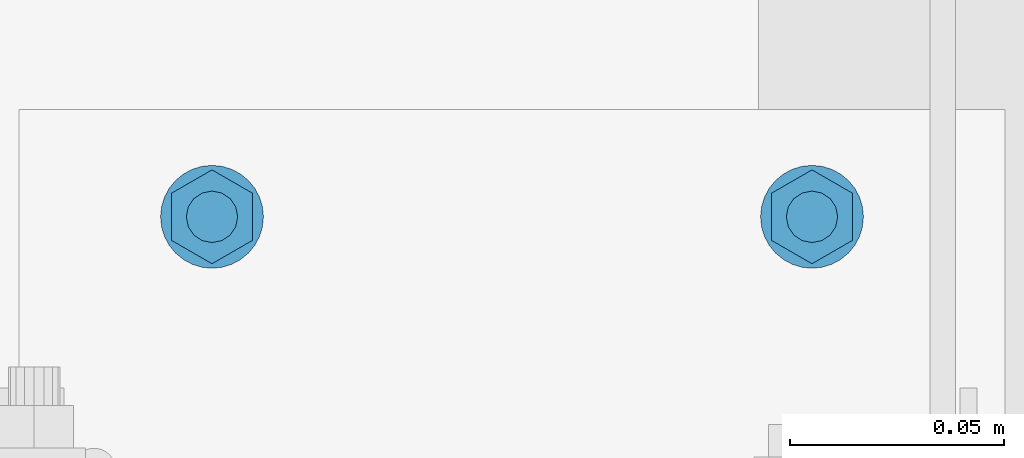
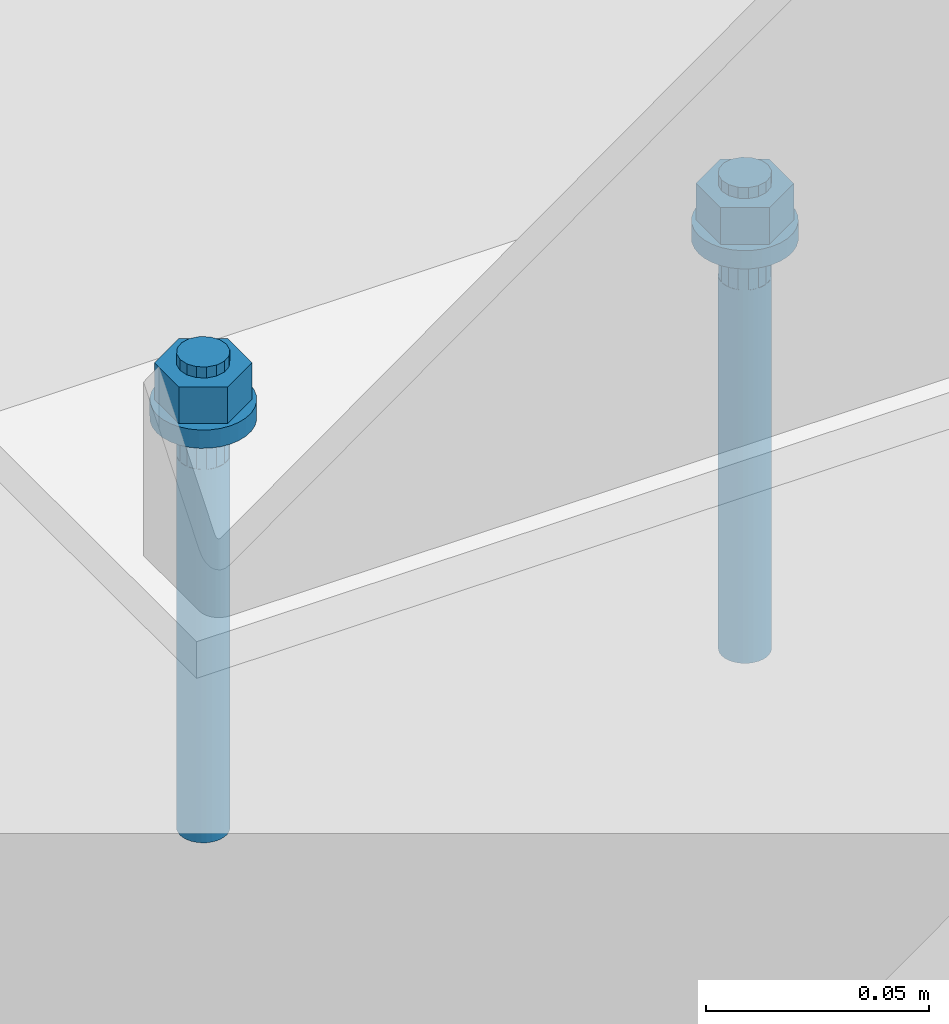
# One storey, part 32 of 116: 1 mechanical fastener.
"""IFC2X3 building model written with IfcOpenShell, lengths in millimetres."""

from ifc_helpers import new_model, entity, si_unit, converted_unit, origin_with_axes, place, context, project, spatial, faceted_brep, element, save


model = new_model("IFC2X3")

# Units and contexts
model_context = context("Model", 3, precision=1e-09, world=origin_with_axes())
ifc_project = project(units=[si_unit("LENGTHUNIT", "METRE", prefix="MILLI"), si_unit("AREAUNIT", "SQUARE_METRE"), si_unit("VOLUMEUNIT", "CUBIC_METRE"), converted_unit("PLANEANGLEUNIT", "DEGREE", entity("IfcPlaneAngleMeasure", 0.01745329), si_unit("PLANEANGLEUNIT", "RADIAN"), dimensions=[0, 0, 0, 0, 0, 0, 0])], contexts=[model_context])

# Site, building, storey
site_placement = place(None, origin_with_axes())
site = spatial("IfcSite", under=ifc_project, at=site_placement, Name="Site", CompositionType="ELEMENT")
building_placement = place(site_placement, origin_with_axes())
building = spatial("IfcBuilding", under=site, at=building_placement, Name="Struktur 1", CompositionType="ELEMENT")
storey_placement = place(building_placement, origin_with_axes())
storey = spatial("IfcBuildingStorey", under=building, at=storey_placement, Name="Default Storey", CompositionType="ELEMENT", Elevation=0.0)

# Mechanical fastener
mechanical_fastener_placement = place(None, origin_with_axes())
element("IfcMechanicalFastener", 1, at=mechanical_fastener_placement, inside=storey, ObjectType="-", NominalDiameter=12.0, NominalLength=130.0, context=model_context, shape_type="Brep", body=[
    faceted_brep([(60566.549134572, 9142.358883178, -1739.5), (60566.549134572, 9142.358883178, -1742.0), (60566.779711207, 9140.017799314, -1742.0), (60566.779711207, 9140.017799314, -1739.5), (60567.462580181, 9137.76668199, -1742.0), (60567.462580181, 9137.76668199, -1739.5), (60568.571499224, 9135.692040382, -1742.0), (60568.571499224, 9135.692040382, -1739.5), (60570.063853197, 9133.873601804, -1742.0), (60570.063853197, 9133.873601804, -1739.5), (60571.882291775, 9132.381247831, -1742.0), (60571.882291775, 9132.381247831, -1739.5), (60573.956933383, 9131.272328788, -1742.0), (60573.956933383, 9131.272328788, -1739.5), (60576.208050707, 9130.589459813, -1742.0), (60576.208050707, 9130.589459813, -1739.5), (60578.549134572, 9130.358883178, -1742.0), (60578.549134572, 9130.358883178, -1739.5), (60580.890218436, 9130.589459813, -1742.0), (60580.890218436, 9130.589459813, -1739.5), (60583.14133576, 9131.272328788, -1742.0), (60583.14133576, 9131.272328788, -1739.5), (60585.215977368, 9132.381247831, -1742.0), (60585.215977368, 9132.381247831, -1739.5), (60587.034415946, 9133.873601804, -1742.0), (60587.034415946, 9133.873601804, -1739.5), (60588.526769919, 9135.692040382, -1742.0), (60588.526769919, 9135.692040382, -1739.5), (60589.635688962, 9137.76668199, -1742.0), (60589.635688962, 9137.76668199, -1739.5), (60590.318557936, 9140.017799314, -1742.0), (60590.318557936, 9140.017799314, -1739.5), (60590.549134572, 9142.358883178, -1742.0), (60590.549134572, 9142.358883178, -1739.5), (60590.318557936, 9144.699967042, -1742.0), (60590.318557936, 9144.699967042, -1739.5), (60589.635688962, 9146.951084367, -1742.0), (60589.635688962, 9146.951084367, -1739.5), (60588.526769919, 9149.025725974, -1742.0), (60588.526769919, 9149.025725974, -1739.5), (60587.034415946, 9150.844164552, -1742.0), (60587.034415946, 9150.844164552, -1739.5), (60585.215977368, 9152.336518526, -1742.0), (60585.215977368, 9152.336518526, -1739.5), (60583.14133576, 9153.445437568, -1742.0), (60583.14133576, 9153.445437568, -1739.5), (60580.890218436, 9154.128306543, -1742.0), (60580.890218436, 9154.128306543, -1739.5), (60578.549134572, 9154.358883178, -1742.0), (60578.549134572, 9154.358883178, -1739.5), (60576.208050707, 9154.128306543, -1742.0), (60576.208050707, 9154.128306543, -1739.5), (60573.956933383, 9153.445437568, -1742.0), (60573.956933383, 9153.445437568, -1739.5), (60571.882291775, 9152.336518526, -1742.0), (60571.882291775, 9152.336518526, -1739.5), (60570.063853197, 9150.844164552, -1742.0), (60570.063853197, 9150.844164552, -1739.5), (60568.571499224, 9149.025725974, -1742.0), (60568.571499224, 9149.025725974, -1739.5), (60567.462580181, 9146.951084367, -1742.0), (60567.462580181, 9146.951084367, -1739.5), (60566.779711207, 9144.699967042, -1742.0), (60566.779711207, 9144.699967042, -1739.5)], [[[0, 1, 2, 3]], [[3, 2, 4, 5]], [[5, 4, 6, 7]], [[7, 6, 8, 9]], [[9, 8, 10, 11]], [[11, 10, 12, 13]], [[13, 12, 14, 15]], [[15, 14, 16, 17]], [[17, 16, 18, 19]], [[19, 18, 20, 21]], [[21, 20, 22, 23]], [[23, 22, 24, 25]], [[25, 24, 26, 27]], [[27, 26, 28, 29]], [[29, 28, 30, 31]], [[31, 30, 32, 33]], [[33, 32, 34, 35]], [[35, 34, 36, 37]], [[37, 36, 38, 39]], [[39, 38, 40, 41]], [[41, 40, 42, 43]], [[43, 42, 44, 45]], [[45, 44, 46, 47]], [[47, 46, 48, 49]], [[49, 48, 50, 51]], [[51, 50, 52, 53]], [[53, 52, 54, 55]], [[55, 54, 56, 57]], [[57, 56, 58, 59]], [[59, 58, 60, 61]], [[61, 60, 62, 63]], [[63, 62, 1, 0]], [[0, 3, 5, 7, 9, 11, 13, 15, 17, 19, 21, 23, 25, 27, 29, 31, 33, 35, 37, 39, 41, 43, 45, 47, 49, 51, 53, 55, 57, 59, 61, 63]], [[1, 62, 60, 58, 56, 54, 52, 50, 48, 46, 44, 42, 40, 38, 36, 34, 32, 30, 28, 26, 24, 22, 20, 18, 16, 14, 12, 10, 8, 6, 4, 2]]]),
    faceted_brep([(60426.549134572, 9142.358883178, -1739.5), (60426.549134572, 9142.358883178, -1742.0), (60426.779711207, 9140.017799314, -1742.0), (60426.779711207, 9140.017799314, -1739.5), (60427.462580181, 9137.76668199, -1742.0), (60427.462580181, 9137.76668199, -1739.5), (60428.571499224, 9135.692040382, -1742.0), (60428.571499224, 9135.692040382, -1739.5), (60430.063853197, 9133.873601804, -1742.0), (60430.063853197, 9133.873601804, -1739.5), (60431.882291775, 9132.381247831, -1742.0), (60431.882291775, 9132.381247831, -1739.5), (60433.956933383, 9131.272328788, -1742.0), (60433.956933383, 9131.272328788, -1739.5), (60436.208050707, 9130.589459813, -1742.0), (60436.208050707, 9130.589459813, -1739.5), (60438.549134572, 9130.358883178, -1742.0), (60438.549134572, 9130.358883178, -1739.5), (60440.890218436, 9130.589459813, -1742.0), (60440.890218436, 9130.589459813, -1739.5), (60443.14133576, 9131.272328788, -1742.0), (60443.14133576, 9131.272328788, -1739.5), (60445.215977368, 9132.381247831, -1742.0), (60445.215977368, 9132.381247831, -1739.5), (60447.034415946, 9133.873601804, -1742.0), (60447.034415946, 9133.873601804, -1739.5), (60448.526769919, 9135.692040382, -1742.0), (60448.526769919, 9135.692040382, -1739.5), (60449.635688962, 9137.76668199, -1742.0), (60449.635688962, 9137.76668199, -1739.5), (60450.318557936, 9140.017799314, -1742.0), (60450.318557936, 9140.017799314, -1739.5), (60450.549134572, 9142.358883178, -1742.0), (60450.549134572, 9142.358883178, -1739.5), (60450.318557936, 9144.699967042, -1742.0), (60450.318557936, 9144.699967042, -1739.5), (60449.635688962, 9146.951084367, -1742.0), (60449.635688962, 9146.951084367, -1739.5), (60448.526769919, 9149.025725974, -1742.0), (60448.526769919, 9149.025725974, -1739.5), (60447.034415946, 9150.844164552, -1742.0), (60447.034415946, 9150.844164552, -1739.5), (60445.215977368, 9152.336518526, -1742.0), (60445.215977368, 9152.336518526, -1739.5), (60443.14133576, 9153.445437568, -1742.0), (60443.14133576, 9153.445437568, -1739.5), (60440.890218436, 9154.128306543, -1742.0), (60440.890218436, 9154.128306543, -1739.5), (60438.549134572, 9154.358883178, -1742.0), (60438.549134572, 9154.358883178, -1739.5), (60436.208050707, 9154.128306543, -1742.0), (60436.208050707, 9154.128306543, -1739.5), (60433.956933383, 9153.445437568, -1742.0), (60433.956933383, 9153.445437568, -1739.5), (60431.882291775, 9152.336518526, -1742.0), (60431.882291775, 9152.336518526, -1739.5), (60430.063853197, 9150.844164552, -1742.0), (60430.063853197, 9150.844164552, -1739.5), (60428.571499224, 9149.025725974, -1742.0), (60428.571499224, 9149.025725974, -1739.5), (60427.462580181, 9146.951084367, -1742.0), (60427.462580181, 9146.951084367, -1739.5), (60426.779711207, 9144.699967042, -1742.0), (60426.779711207, 9144.699967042, -1739.5)], [[[0, 1, 2, 3]], [[3, 2, 4, 5]], [[5, 4, 6, 7]], [[7, 6, 8, 9]], [[9, 8, 10, 11]], [[11, 10, 12, 13]], [[13, 12, 14, 15]], [[15, 14, 16, 17]], [[17, 16, 18, 19]], [[19, 18, 20, 21]], [[21, 20, 22, 23]], [[23, 22, 24, 25]], [[25, 24, 26, 27]], [[27, 26, 28, 29]], [[29, 28, 30, 31]], [[31, 30, 32, 33]], [[33, 32, 34, 35]], [[35, 34, 36, 37]], [[37, 36, 38, 39]], [[39, 38, 40, 41]], [[41, 40, 42, 43]], [[43, 42, 44, 45]], [[45, 44, 46, 47]], [[47, 46, 48, 49]], [[49, 48, 50, 51]], [[51, 50, 52, 53]], [[53, 52, 54, 55]], [[55, 54, 56, 57]], [[57, 56, 58, 59]], [[59, 58, 60, 61]], [[61, 60, 62, 63]], [[63, 62, 1, 0]], [[0, 3, 5, 7, 9, 11, 13, 15, 17, 19, 21, 23, 25, 27, 29, 31, 33, 35, 37, 39, 41, 43, 45, 47, 49, 51, 53, 55, 57, 59, 61, 63]], [[1, 62, 60, 58, 56, 54, 52, 50, 48, 46, 44, 42, 40, 38, 36, 34, 32, 30, 28, 26, 24, 22, 20, 18, 16, 14, 12, 10, 8, 6, 4, 2]]]),
    faceted_brep([(60566.549134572, 9142.358883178, -1737.0), (60566.549134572, 9142.358883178, -1739.5), (60566.779711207, 9140.017799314, -1739.5), (60566.779711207, 9140.017799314, -1737.0), (60567.462580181, 9137.76668199, -1739.5), (60567.462580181, 9137.76668199, -1737.0), (60568.571499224, 9135.692040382, -1739.5), (60568.571499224, 9135.692040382, -1737.0), (60570.063853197, 9133.873601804, -1739.5), (60570.063853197, 9133.873601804, -1737.0), (60571.882291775, 9132.381247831, -1739.5), (60571.882291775, 9132.381247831, -1737.0), (60573.956933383, 9131.272328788, -1739.5), (60573.956933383, 9131.272328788, -1737.0), (60576.208050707, 9130.589459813, -1739.5), (60576.208050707, 9130.589459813, -1737.0), (60578.549134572, 9130.358883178, -1739.5), (60578.549134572, 9130.358883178, -1737.0), (60580.890218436, 9130.589459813, -1739.5), (60580.890218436, 9130.589459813, -1737.0), (60583.14133576, 9131.272328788, -1739.5), (60583.14133576, 9131.272328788, -1737.0), (60585.215977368, 9132.381247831, -1739.5), (60585.215977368, 9132.381247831, -1737.0), (60587.034415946, 9133.873601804, -1739.5), (60587.034415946, 9133.873601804, -1737.0), (60588.526769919, 9135.692040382, -1739.5), (60588.526769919, 9135.692040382, -1737.0), (60589.635688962, 9137.76668199, -1739.5), (60589.635688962, 9137.76668199, -1737.0), (60590.318557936, 9140.017799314, -1739.5), (60590.318557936, 9140.017799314, -1737.0), (60590.549134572, 9142.358883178, -1739.5), (60590.549134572, 9142.358883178, -1737.0), (60590.318557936, 9144.699967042, -1739.5), (60590.318557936, 9144.699967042, -1737.0), (60589.635688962, 9146.951084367, -1739.5), (60589.635688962, 9146.951084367, -1737.0), (60588.526769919, 9149.025725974, -1739.5), (60588.526769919, 9149.025725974, -1737.0), (60587.034415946, 9150.844164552, -1739.5), (60587.034415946, 9150.844164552, -1737.0), (60585.215977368, 9152.336518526, -1739.5), (60585.215977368, 9152.336518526, -1737.0), (60583.14133576, 9153.445437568, -1739.5), (60583.14133576, 9153.445437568, -1737.0), (60580.890218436, 9154.128306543, -1739.5), (60580.890218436, 9154.128306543, -1737.0), (60578.549134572, 9154.358883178, -1739.5), (60578.549134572, 9154.358883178, -1737.0), (60576.208050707, 9154.128306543, -1739.5), (60576.208050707, 9154.128306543, -1737.0), (60573.956933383, 9153.445437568, -1739.5), (60573.956933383, 9153.445437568, -1737.0), (60571.882291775, 9152.336518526, -1739.5), (60571.882291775, 9152.336518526, -1737.0), (60570.063853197, 9150.844164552, -1739.5), (60570.063853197, 9150.844164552, -1737.0), (60568.571499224, 9149.025725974, -1739.5), (60568.571499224, 9149.025725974, -1737.0), (60567.462580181, 9146.951084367, -1739.5), (60567.462580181, 9146.951084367, -1737.0), (60566.779711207, 9144.699967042, -1739.5), (60566.779711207, 9144.699967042, -1737.0)], [[[0, 1, 2, 3]], [[3, 2, 4, 5]], [[5, 4, 6, 7]], [[7, 6, 8, 9]], [[9, 8, 10, 11]], [[11, 10, 12, 13]], [[13, 12, 14, 15]], [[15, 14, 16, 17]], [[17, 16, 18, 19]], [[19, 18, 20, 21]], [[21, 20, 22, 23]], [[23, 22, 24, 25]], [[25, 24, 26, 27]], [[27, 26, 28, 29]], [[29, 28, 30, 31]], [[31, 30, 32, 33]], [[33, 32, 34, 35]], [[35, 34, 36, 37]], [[37, 36, 38, 39]], [[39, 38, 40, 41]], [[41, 40, 42, 43]], [[43, 42, 44, 45]], [[45, 44, 46, 47]], [[47, 46, 48, 49]], [[49, 48, 50, 51]], [[51, 50, 52, 53]], [[53, 52, 54, 55]], [[55, 54, 56, 57]], [[57, 56, 58, 59]], [[59, 58, 60, 61]], [[61, 60, 62, 63]], [[63, 62, 1, 0]], [[0, 3, 5, 7, 9, 11, 13, 15, 17, 19, 21, 23, 25, 27, 29, 31, 33, 35, 37, 39, 41, 43, 45, 47, 49, 51, 53, 55, 57, 59, 61, 63]], [[1, 62, 60, 58, 56, 54, 52, 50, 48, 46, 44, 42, 40, 38, 36, 34, 32, 30, 28, 26, 24, 22, 20, 18, 16, 14, 12, 10, 8, 6, 4, 2]]]),
    faceted_brep([(60426.549134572, 9142.358883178, -1737.0), (60426.549134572, 9142.358883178, -1739.5), (60426.779711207, 9140.017799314, -1739.5), (60426.779711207, 9140.017799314, -1737.0), (60427.462580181, 9137.76668199, -1739.5), (60427.462580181, 9137.76668199, -1737.0), (60428.571499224, 9135.692040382, -1739.5), (60428.571499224, 9135.692040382, -1737.0), (60430.063853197, 9133.873601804, -1739.5), (60430.063853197, 9133.873601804, -1737.0), (60431.882291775, 9132.381247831, -1739.5), (60431.882291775, 9132.381247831, -1737.0), (60433.956933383, 9131.272328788, -1739.5), (60433.956933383, 9131.272328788, -1737.0), (60436.208050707, 9130.589459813, -1739.5), (60436.208050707, 9130.589459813, -1737.0), (60438.549134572, 9130.358883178, -1739.5), (60438.549134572, 9130.358883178, -1737.0), (60440.890218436, 9130.589459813, -1739.5), (60440.890218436, 9130.589459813, -1737.0), (60443.14133576, 9131.272328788, -1739.5), (60443.14133576, 9131.272328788, -1737.0), (60445.215977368, 9132.381247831, -1739.5), (60445.215977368, 9132.381247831, -1737.0), (60447.034415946, 9133.873601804, -1739.5), (60447.034415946, 9133.873601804, -1737.0), (60448.526769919, 9135.692040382, -1739.5), (60448.526769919, 9135.692040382, -1737.0), (60449.635688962, 9137.76668199, -1739.5), (60449.635688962, 9137.76668199, -1737.0), (60450.318557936, 9140.017799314, -1739.5), (60450.318557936, 9140.017799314, -1737.0), (60450.549134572, 9142.358883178, -1739.5), (60450.549134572, 9142.358883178, -1737.0), (60450.318557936, 9144.699967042, -1739.5), (60450.318557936, 9144.699967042, -1737.0), (60449.635688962, 9146.951084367, -1739.5), (60449.635688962, 9146.951084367, -1737.0), (60448.526769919, 9149.025725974, -1739.5), (60448.526769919, 9149.025725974, -1737.0), (60447.034415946, 9150.844164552, -1739.5), (60447.034415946, 9150.844164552, -1737.0), (60445.215977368, 9152.336518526, -1739.5), (60445.215977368, 9152.336518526, -1737.0), (60443.14133576, 9153.445437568, -1739.5), (60443.14133576, 9153.445437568, -1737.0), (60440.890218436, 9154.128306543, -1739.5), (60440.890218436, 9154.128306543, -1737.0), (60438.549134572, 9154.358883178, -1739.5), (60438.549134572, 9154.358883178, -1737.0), (60436.208050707, 9154.128306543, -1739.5), (60436.208050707, 9154.128306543, -1737.0), (60433.956933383, 9153.445437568, -1739.5), (60433.956933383, 9153.445437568, -1737.0), (60431.882291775, 9152.336518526, -1739.5), (60431.882291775, 9152.336518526, -1737.0), (60430.063853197, 9150.844164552, -1739.5), (60430.063853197, 9150.844164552, -1737.0), (60428.571499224, 9149.025725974, -1739.5), (60428.571499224, 9149.025725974, -1737.0), (60427.462580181, 9146.951084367, -1739.5), (60427.462580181, 9146.951084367, -1737.0), (60426.779711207, 9144.699967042, -1739.5), (60426.779711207, 9144.699967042, -1737.0)], [[[0, 1, 2, 3]], [[3, 2, 4, 5]], [[5, 4, 6, 7]], [[7, 6, 8, 9]], [[9, 8, 10, 11]], [[11, 10, 12, 13]], [[13, 12, 14, 15]], [[15, 14, 16, 17]], [[17, 16, 18, 19]], [[19, 18, 20, 21]], [[21, 20, 22, 23]], [[23, 22, 24, 25]], [[25, 24, 26, 27]], [[27, 26, 28, 29]], [[29, 28, 30, 31]], [[31, 30, 32, 33]], [[33, 32, 34, 35]], [[35, 34, 36, 37]], [[37, 36, 38, 39]], [[39, 38, 40, 41]], [[41, 40, 42, 43]], [[43, 42, 44, 45]], [[45, 44, 46, 47]], [[47, 46, 48, 49]], [[49, 48, 50, 51]], [[51, 50, 52, 53]], [[53, 52, 54, 55]], [[55, 54, 56, 57]], [[57, 56, 58, 59]], [[59, 58, 60, 61]], [[61, 60, 62, 63]], [[63, 62, 1, 0]], [[0, 3, 5, 7, 9, 11, 13, 15, 17, 19, 21, 23, 25, 27, 29, 31, 33, 35, 37, 39, 41, 43, 45, 47, 49, 51, 53, 55, 57, 59, 61, 63]], [[1, 62, 60, 58, 56, 54, 52, 50, 48, 46, 44, 42, 40, 38, 36, 34, 32, 30, 28, 26, 24, 22, 20, 18, 16, 14, 12, 10, 8, 6, 4, 2]]]),
    faceted_brep([(60588.032112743, 9136.883883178, -1737.0), (60588.032112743, 9136.883883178, -1727.0), (60578.549134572, 9131.408883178, -1727.0), (60578.549134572, 9131.408883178, -1737.0), (60569.0661564, 9136.883883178, -1727.0), (60569.0661564, 9136.883883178, -1737.0), (60569.0661564, 9147.833883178, -1727.0), (60569.0661564, 9147.833883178, -1737.0), (60578.549134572, 9153.308883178, -1727.0), (60578.549134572, 9153.308883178, -1737.0), (60588.032112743, 9147.833883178, -1727.0), (60588.032112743, 9147.833883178, -1737.0)], [[[0, 1, 2, 3]], [[3, 2, 4, 5]], [[5, 4, 6, 7]], [[7, 6, 8, 9]], [[9, 8, 10, 11]], [[11, 10, 1, 0]], [[4, 2, 1, 10, 8, 6]], [[0, 3, 5, 7, 9, 11]]]),
    faceted_brep([(60448.032112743, 9136.883883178, -1737.0), (60448.032112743, 9136.883883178, -1727.0), (60438.549134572, 9131.408883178, -1727.0), (60438.549134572, 9131.408883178, -1737.0), (60429.0661564, 9136.883883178, -1727.0), (60429.0661564, 9136.883883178, -1737.0), (60429.0661564, 9147.833883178, -1727.0), (60429.0661564, 9147.833883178, -1737.0), (60438.549134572, 9153.308883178, -1727.0), (60438.549134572, 9153.308883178, -1737.0), (60448.032112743, 9147.833883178, -1727.0), (60448.032112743, 9147.833883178, -1737.0)], [[[0, 1, 2, 3]], [[3, 2, 4, 5]], [[5, 4, 6, 7]], [[7, 6, 8, 9]], [[9, 8, 10, 11]], [[11, 10, 1, 0]], [[4, 2, 1, 10, 8, 6]], [[0, 3, 5, 7, 9, 11]]]),
    faceted_brep([(60572.549134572, 9142.358883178, -1724.0), (60572.549134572, 9142.358883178, -1727.0), (60573.005857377, 9140.062782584, -1727.0), (60573.005857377, 9140.062782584, -1724.0), (60574.306493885, 9138.116242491, -1727.0), (60574.306493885, 9138.116242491, -1724.0), (60576.253033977, 9136.815605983, -1727.0), (60576.253033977, 9136.815605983, -1724.0), (60578.549134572, 9136.358883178, -1727.0), (60578.549134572, 9136.358883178, -1724.0), (60580.845235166, 9136.815605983, -1727.0), (60580.845235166, 9136.815605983, -1724.0), (60582.791775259, 9138.116242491, -1727.0), (60582.791775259, 9138.116242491, -1724.0), (60584.092411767, 9140.062782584, -1727.0), (60584.092411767, 9140.062782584, -1724.0), (60584.549134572, 9142.358883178, -1727.0), (60584.549134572, 9142.358883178, -1724.0), (60584.092411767, 9144.654983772, -1727.0), (60584.092411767, 9144.654983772, -1724.0), (60582.791775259, 9146.601523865, -1727.0), (60582.791775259, 9146.601523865, -1724.0), (60580.845235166, 9147.902160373, -1727.0), (60580.845235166, 9147.902160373, -1724.0), (60578.549134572, 9148.358883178, -1727.0), (60578.549134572, 9148.358883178, -1724.0), (60576.253033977, 9147.902160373, -1727.0), (60576.253033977, 9147.902160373, -1724.0), (60574.306493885, 9146.601523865, -1727.0), (60574.306493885, 9146.601523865, -1724.0), (60573.005857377, 9144.654983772, -1727.0), (60573.005857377, 9144.654983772, -1724.0)], [[[0, 1, 2, 3]], [[3, 2, 4, 5]], [[5, 4, 6, 7]], [[7, 6, 8, 9]], [[9, 8, 10, 11]], [[11, 10, 12, 13]], [[13, 12, 14, 15]], [[15, 14, 16, 17]], [[17, 16, 18, 19]], [[19, 18, 20, 21]], [[21, 20, 22, 23]], [[23, 22, 24, 25]], [[25, 24, 26, 27]], [[27, 26, 28, 29]], [[29, 28, 30, 31]], [[31, 30, 1, 0]], [[0, 3, 5, 7, 9, 11, 13, 15, 17, 19, 21, 23, 25, 27, 29, 31]], [[1, 30, 28, 26, 24, 22, 20, 18, 16, 14, 12, 10, 8, 6, 4, 2]]]),
    faceted_brep([(60432.549134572, 9142.358883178, -1724.0), (60432.549134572, 9142.358883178, -1727.0), (60433.005857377, 9140.062782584, -1727.0), (60433.005857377, 9140.062782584, -1724.0), (60434.306493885, 9138.116242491, -1727.0), (60434.306493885, 9138.116242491, -1724.0), (60436.253033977, 9136.815605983, -1727.0), (60436.253033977, 9136.815605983, -1724.0), (60438.549134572, 9136.358883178, -1727.0), (60438.549134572, 9136.358883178, -1724.0), (60440.845235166, 9136.815605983, -1727.0), (60440.845235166, 9136.815605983, -1724.0), (60442.791775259, 9138.116242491, -1727.0), (60442.791775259, 9138.116242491, -1724.0), (60444.092411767, 9140.062782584, -1727.0), (60444.092411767, 9140.062782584, -1724.0), (60444.549134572, 9142.358883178, -1727.0), (60444.549134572, 9142.358883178, -1724.0), (60444.092411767, 9144.654983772, -1727.0), (60444.092411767, 9144.654983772, -1724.0), (60442.791775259, 9146.601523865, -1727.0), (60442.791775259, 9146.601523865, -1724.0), (60440.845235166, 9147.902160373, -1727.0), (60440.845235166, 9147.902160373, -1724.0), (60438.549134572, 9148.358883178, -1727.0), (60438.549134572, 9148.358883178, -1724.0), (60436.253033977, 9147.902160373, -1727.0), (60436.253033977, 9147.902160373, -1724.0), (60434.306493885, 9146.601523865, -1727.0), (60434.306493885, 9146.601523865, -1724.0), (60433.005857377, 9144.654983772, -1727.0), (60433.005857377, 9144.654983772, -1724.0)], [[[0, 1, 2, 3]], [[3, 2, 4, 5]], [[5, 4, 6, 7]], [[7, 6, 8, 9]], [[9, 8, 10, 11]], [[11, 10, 12, 13]], [[13, 12, 14, 15]], [[15, 14, 16, 17]], [[17, 16, 18, 19]], [[19, 18, 20, 21]], [[21, 20, 22, 23]], [[23, 22, 24, 25]], [[25, 24, 26, 27]], [[27, 26, 28, 29]], [[29, 28, 30, 31]], [[31, 30, 1, 0]], [[0, 3, 5, 7, 9, 11, 13, 15, 17, 19, 21, 23, 25, 27, 29, 31]], [[1, 30, 28, 26, 24, 22, 20, 18, 16, 14, 12, 10, 8, 6, 4, 2]]]),
    faceted_brep([(60572.549134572, 9142.358883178, -1742.0), (60572.549134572, 9142.358883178, -1752.0), (60573.005857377, 9140.062782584, -1752.0), (60573.005857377, 9140.062782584, -1742.0), (60574.306493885, 9138.116242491, -1752.0), (60574.306493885, 9138.116242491, -1742.0), (60576.253033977, 9136.815605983, -1752.0), (60576.253033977, 9136.815605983, -1742.0), (60578.549134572, 9136.358883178, -1752.0), (60578.549134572, 9136.358883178, -1742.0), (60580.845235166, 9136.815605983, -1752.0), (60580.845235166, 9136.815605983, -1742.0), (60582.791775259, 9138.116242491, -1752.0), (60582.791775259, 9138.116242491, -1742.0), (60584.092411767, 9140.062782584, -1752.0), (60584.092411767, 9140.062782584, -1742.0), (60584.549134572, 9142.358883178, -1752.0), (60584.549134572, 9142.358883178, -1742.0), (60584.092411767, 9144.654983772, -1752.0), (60584.092411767, 9144.654983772, -1742.0), (60582.791775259, 9146.601523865, -1752.0), (60582.791775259, 9146.601523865, -1742.0), (60580.845235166, 9147.902160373, -1752.0), (60580.845235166, 9147.902160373, -1742.0), (60578.549134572, 9148.358883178, -1752.0), (60578.549134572, 9148.358883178, -1742.0), (60576.253033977, 9147.902160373, -1752.0), (60576.253033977, 9147.902160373, -1742.0), (60574.306493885, 9146.601523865, -1752.0), (60574.306493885, 9146.601523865, -1742.0), (60573.005857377, 9144.654983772, -1752.0), (60573.005857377, 9144.654983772, -1742.0)], [[[0, 1, 2, 3]], [[3, 2, 4, 5]], [[5, 4, 6, 7]], [[7, 6, 8, 9]], [[9, 8, 10, 11]], [[11, 10, 12, 13]], [[13, 12, 14, 15]], [[15, 14, 16, 17]], [[17, 16, 18, 19]], [[19, 18, 20, 21]], [[21, 20, 22, 23]], [[23, 22, 24, 25]], [[25, 24, 26, 27]], [[27, 26, 28, 29]], [[29, 28, 30, 31]], [[31, 30, 1, 0]], [[0, 3, 5, 7, 9, 11, 13, 15, 17, 19, 21, 23, 25, 27, 29, 31]], [[1, 30, 28, 26, 24, 22, 20, 18, 16, 14, 12, 10, 8, 6, 4, 2]]]),
    faceted_brep([(60432.549134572, 9142.358883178, -1742.0), (60432.549134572, 9142.358883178, -1752.0), (60433.005857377, 9140.062782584, -1752.0), (60433.005857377, 9140.062782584, -1742.0), (60434.306493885, 9138.116242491, -1752.0), (60434.306493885, 9138.116242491, -1742.0), (60436.253033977, 9136.815605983, -1752.0), (60436.253033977, 9136.815605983, -1742.0), (60438.549134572, 9136.358883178, -1752.0), (60438.549134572, 9136.358883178, -1742.0), (60440.845235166, 9136.815605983, -1752.0), (60440.845235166, 9136.815605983, -1742.0), (60442.791775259, 9138.116242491, -1752.0), (60442.791775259, 9138.116242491, -1742.0), (60444.092411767, 9140.062782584, -1752.0), (60444.092411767, 9140.062782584, -1742.0), (60444.549134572, 9142.358883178, -1752.0), (60444.549134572, 9142.358883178, -1742.0), (60444.092411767, 9144.654983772, -1752.0), (60444.092411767, 9144.654983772, -1742.0), (60442.791775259, 9146.601523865, -1752.0), (60442.791775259, 9146.601523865, -1742.0), (60440.845235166, 9147.902160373, -1752.0), (60440.845235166, 9147.902160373, -1742.0), (60438.549134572, 9148.358883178, -1752.0), (60438.549134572, 9148.358883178, -1742.0), (60436.253033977, 9147.902160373, -1752.0), (60436.253033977, 9147.902160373, -1742.0), (60434.306493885, 9146.601523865, -1752.0), (60434.306493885, 9146.601523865, -1742.0), (60433.005857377, 9144.654983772, -1752.0), (60433.005857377, 9144.654983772, -1742.0)], [[[0, 1, 2, 3]], [[3, 2, 4, 5]], [[5, 4, 6, 7]], [[7, 6, 8, 9]], [[9, 8, 10, 11]], [[11, 10, 12, 13]], [[13, 12, 14, 15]], [[15, 14, 16, 17]], [[17, 16, 18, 19]], [[19, 18, 20, 21]], [[21, 20, 22, 23]], [[23, 22, 24, 25]], [[25, 24, 26, 27]], [[27, 26, 28, 29]], [[29, 28, 30, 31]], [[31, 30, 1, 0]], [[0, 3, 5, 7, 9, 11, 13, 15, 17, 19, 21, 23, 25, 27, 29, 31]], [[1, 30, 28, 26, 24, 22, 20, 18, 16, 14, 12, 10, 8, 6, 4, 2]]]),
    faceted_brep([(60572.549134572, 9142.358883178, -1752.0), (60572.549134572, 9142.358883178, -1854.0), (60572.664422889, 9141.188341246, -1854.0), (60572.664422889, 9141.188341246, -1752.0), (60573.005857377, 9140.062782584, -1854.0), (60573.005857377, 9140.062782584, -1752.0), (60573.560316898, 9139.02546178, -1854.0), (60573.560316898, 9139.02546178, -1752.0), (60574.306493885, 9138.116242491, -1854.0), (60574.306493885, 9138.116242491, -1752.0), (60575.215713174, 9137.370065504, -1854.0), (60575.215713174, 9137.370065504, -1752.0), (60576.253033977, 9136.815605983, -1854.0), (60576.253033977, 9136.815605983, -1752.0), (60577.37859264, 9136.474171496, -1854.0), (60577.37859264, 9136.474171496, -1752.0), (60578.549134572, 9136.358883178, -1854.0), (60578.549134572, 9136.358883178, -1752.0), (60579.719676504, 9136.474171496, -1854.0), (60579.719676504, 9136.474171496, -1752.0), (60580.845235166, 9136.815605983, -1854.0), (60580.845235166, 9136.815605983, -1752.0), (60581.88255597, 9137.370065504, -1854.0), (60581.88255597, 9137.370065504, -1752.0), (60582.791775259, 9138.116242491, -1854.0), (60582.791775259, 9138.116242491, -1752.0), (60583.537952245, 9139.02546178, -1854.0), (60583.537952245, 9139.02546178, -1752.0), (60584.092411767, 9140.062782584, -1854.0), (60584.092411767, 9140.062782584, -1752.0), (60584.433846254, 9141.188341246, -1854.0), (60584.433846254, 9141.188341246, -1752.0), (60584.549134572, 9142.358883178, -1854.0), (60584.549134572, 9142.358883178, -1752.0), (60584.433846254, 9143.52942511, -1854.0), (60584.433846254, 9143.52942511, -1752.0), (60584.092411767, 9144.654983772, -1854.0), (60584.092411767, 9144.654983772, -1752.0), (60583.537952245, 9145.692304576, -1854.0), (60583.537952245, 9145.692304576, -1752.0), (60582.791775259, 9146.601523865, -1854.0), (60582.791775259, 9146.601523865, -1752.0), (60581.88255597, 9147.347700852, -1854.0), (60581.88255597, 9147.347700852, -1752.0), (60580.845235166, 9147.902160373, -1854.0), (60580.845235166, 9147.902160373, -1752.0), (60579.719676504, 9148.243594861, -1854.0), (60579.719676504, 9148.243594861, -1752.0), (60578.549134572, 9148.358883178, -1854.0), (60578.549134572, 9148.358883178, -1752.0), (60577.37859264, 9148.243594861, -1854.0), (60577.37859264, 9148.243594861, -1752.0), (60576.253033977, 9147.902160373, -1854.0), (60576.253033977, 9147.902160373, -1752.0), (60575.215713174, 9147.347700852, -1854.0), (60575.215713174, 9147.347700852, -1752.0), (60574.306493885, 9146.601523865, -1854.0), (60574.306493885, 9146.601523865, -1752.0), (60573.560316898, 9145.692304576, -1854.0), (60573.560316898, 9145.692304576, -1752.0), (60573.005857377, 9144.654983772, -1854.0), (60573.005857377, 9144.654983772, -1752.0), (60572.664422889, 9143.52942511, -1854.0), (60572.664422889, 9143.52942511, -1752.0)], [[[0, 1, 2, 3]], [[3, 2, 4, 5]], [[5, 4, 6, 7]], [[7, 6, 8, 9]], [[9, 8, 10, 11]], [[11, 10, 12, 13]], [[13, 12, 14, 15]], [[15, 14, 16, 17]], [[17, 16, 18, 19]], [[19, 18, 20, 21]], [[21, 20, 22, 23]], [[23, 22, 24, 25]], [[25, 24, 26, 27]], [[27, 26, 28, 29]], [[29, 28, 30, 31]], [[31, 30, 32, 33]], [[33, 32, 34, 35]], [[35, 34, 36, 37]], [[37, 36, 38, 39]], [[39, 38, 40, 41]], [[41, 40, 42, 43]], [[43, 42, 44, 45]], [[45, 44, 46, 47]], [[47, 46, 48, 49]], [[49, 48, 50, 51]], [[51, 50, 52, 53]], [[53, 52, 54, 55]], [[55, 54, 56, 57]], [[57, 56, 58, 59]], [[59, 58, 60, 61]], [[61, 60, 62, 63]], [[63, 62, 1, 0]], [[0, 3, 5, 7, 9, 11, 13, 15, 17, 19, 21, 23, 25, 27, 29, 31, 33, 35, 37, 39, 41, 43, 45, 47, 49, 51, 53, 55, 57, 59, 61, 63]], [[1, 62, 60, 58, 56, 54, 52, 50, 48, 46, 44, 42, 40, 38, 36, 34, 32, 30, 28, 26, 24, 22, 20, 18, 16, 14, 12, 10, 8, 6, 4, 2]]]),
    faceted_brep([(60432.549134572, 9142.358883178, -1752.0), (60432.549134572, 9142.358883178, -1854.0), (60432.664422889, 9141.188341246, -1854.0), (60432.664422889, 9141.188341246, -1752.0), (60433.005857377, 9140.062782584, -1854.0), (60433.005857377, 9140.062782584, -1752.0), (60433.560316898, 9139.02546178, -1854.0), (60433.560316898, 9139.02546178, -1752.0), (60434.306493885, 9138.116242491, -1854.0), (60434.306493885, 9138.116242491, -1752.0), (60435.215713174, 9137.370065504, -1854.0), (60435.215713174, 9137.370065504, -1752.0), (60436.253033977, 9136.815605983, -1854.0), (60436.253033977, 9136.815605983, -1752.0), (60437.37859264, 9136.474171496, -1854.0), (60437.37859264, 9136.474171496, -1752.0), (60438.549134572, 9136.358883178, -1854.0), (60438.549134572, 9136.358883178, -1752.0), (60439.719676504, 9136.474171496, -1854.0), (60439.719676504, 9136.474171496, -1752.0), (60440.845235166, 9136.815605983, -1854.0), (60440.845235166, 9136.815605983, -1752.0), (60441.88255597, 9137.370065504, -1854.0), (60441.88255597, 9137.370065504, -1752.0), (60442.791775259, 9138.116242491, -1854.0), (60442.791775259, 9138.116242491, -1752.0), (60443.537952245, 9139.02546178, -1854.0), (60443.537952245, 9139.02546178, -1752.0), (60444.092411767, 9140.062782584, -1854.0), (60444.092411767, 9140.062782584, -1752.0), (60444.433846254, 9141.188341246, -1854.0), (60444.433846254, 9141.188341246, -1752.0), (60444.549134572, 9142.358883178, -1854.0), (60444.549134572, 9142.358883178, -1752.0), (60444.433846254, 9143.52942511, -1854.0), (60444.433846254, 9143.52942511, -1752.0), (60444.092411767, 9144.654983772, -1854.0), (60444.092411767, 9144.654983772, -1752.0), (60443.537952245, 9145.692304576, -1854.0), (60443.537952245, 9145.692304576, -1752.0), (60442.791775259, 9146.601523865, -1854.0), (60442.791775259, 9146.601523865, -1752.0), (60441.88255597, 9147.347700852, -1854.0), (60441.88255597, 9147.347700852, -1752.0), (60440.845235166, 9147.902160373, -1854.0), (60440.845235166, 9147.902160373, -1752.0), (60439.719676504, 9148.243594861, -1854.0), (60439.719676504, 9148.243594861, -1752.0), (60438.549134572, 9148.358883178, -1854.0), (60438.549134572, 9148.358883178, -1752.0), (60437.37859264, 9148.243594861, -1854.0), (60437.37859264, 9148.243594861, -1752.0), (60436.253033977, 9147.902160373, -1854.0), (60436.253033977, 9147.902160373, -1752.0), (60435.215713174, 9147.347700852, -1854.0), (60435.215713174, 9147.347700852, -1752.0), (60434.306493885, 9146.601523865, -1854.0), (60434.306493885, 9146.601523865, -1752.0), (60433.560316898, 9145.692304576, -1854.0), (60433.560316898, 9145.692304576, -1752.0), (60433.005857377, 9144.654983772, -1854.0), (60433.005857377, 9144.654983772, -1752.0), (60432.664422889, 9143.52942511, -1854.0), (60432.664422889, 9143.52942511, -1752.0)], [[[0, 1, 2, 3]], [[3, 2, 4, 5]], [[5, 4, 6, 7]], [[7, 6, 8, 9]], [[9, 8, 10, 11]], [[11, 10, 12, 13]], [[13, 12, 14, 15]], [[15, 14, 16, 17]], [[17, 16, 18, 19]], [[19, 18, 20, 21]], [[21, 20, 22, 23]], [[23, 22, 24, 25]], [[25, 24, 26, 27]], [[27, 26, 28, 29]], [[29, 28, 30, 31]], [[31, 30, 32, 33]], [[33, 32, 34, 35]], [[35, 34, 36, 37]], [[37, 36, 38, 39]], [[39, 38, 40, 41]], [[41, 40, 42, 43]], [[43, 42, 44, 45]], [[45, 44, 46, 47]], [[47, 46, 48, 49]], [[49, 48, 50, 51]], [[51, 50, 52, 53]], [[53, 52, 54, 55]], [[55, 54, 56, 57]], [[57, 56, 58, 59]], [[59, 58, 60, 61]], [[61, 60, 62, 63]], [[63, 62, 1, 0]], [[0, 3, 5, 7, 9, 11, 13, 15, 17, 19, 21, 23, 25, 27, 29, 31, 33, 35, 37, 39, 41, 43, 45, 47, 49, 51, 53, 55, 57, 59, 61, 63]], [[1, 62, 60, 58, 56, 54, 52, 50, 48, 46, 44, 42, 40, 38, 36, 34, 32, 30, 28, 26, 24, 22, 20, 18, 16, 14, 12, 10, 8, 6, 4, 2]]]),
])

save(model, "model.ifc")
